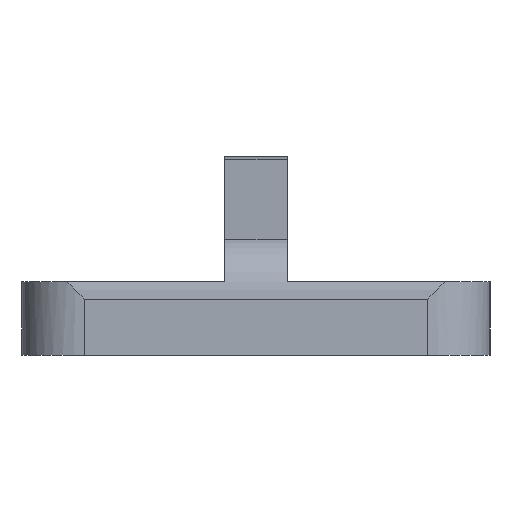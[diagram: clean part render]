
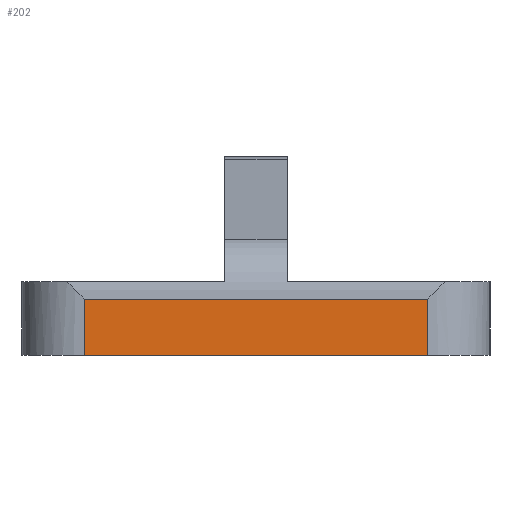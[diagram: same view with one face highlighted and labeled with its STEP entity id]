
A CAD part, left-side view. The second image highlights one B-rep face of the part: STEP entity #202.
In plain terms, the highlighted planar face has unit normal (-1, 0, 0).
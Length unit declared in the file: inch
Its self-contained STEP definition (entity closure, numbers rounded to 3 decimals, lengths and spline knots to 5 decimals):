
#11 = ORIENTED_EDGE ( 'NONE', *, *, #925, .T. ) ;
#22 = DIRECTION ( 'NONE',  ( 0., 0., -1. ) ) ;
#75 = ORIENTED_EDGE ( 'NONE', *, *, #694, .T. ) ;
#86 = PLANE ( 'NONE',  #948 ) ;
#95 = ORIENTED_EDGE ( 'NONE', *, *, #967, .T. ) ;
#124 = CARTESIAN_POINT ( 'NONE',  ( 0., 0., 0.08992 ) ) ;
#170 = CARTESIAN_POINT ( 'NONE',  ( 0., -0.1, 0. ) ) ;
#176 = VECTOR ( 'NONE', #551, 39.37008 ) ;
#195 = LINE ( 'NONE', #814, #614 ) ;
#202 = ADVANCED_FACE ( 'NONE', ( #700 ), #86, .F. ) ;
#314 = VECTOR ( 'NONE', #537, 39.37008 ) ;
#347 = VERTEX_POINT ( 'NONE', #886 ) ;
#397 = LINE ( 'NONE', #865, #176 ) ;
#411 = DIRECTION ( 'NONE',  ( 1., 0., 0. ) ) ;
#457 = LINE ( 'NONE', #774, #314 ) ;
#537 = DIRECTION ( 'NONE',  ( 0., 0., 1. ) ) ;
#548 = DIRECTION ( 'NONE',  ( 0., 1., 0. ) ) ;
#551 = DIRECTION ( 'NONE',  ( 0., -1., 0. ) ) ;
#564 = CARTESIAN_POINT ( 'NONE',  ( 0., 0., 0.11811 ) ) ;
#614 = VECTOR ( 'NONE', #22, 39.37008 ) ;
#627 = ORIENTED_EDGE ( 'NONE', *, *, #647, .T. ) ;
#629 = VERTEX_POINT ( 'NONE', #637 ) ;
#637 = CARTESIAN_POINT ( 'NONE',  ( 0., -0.65, 0.08992 ) ) ;
#647 = EDGE_CURVE ( 'NONE', #990, #347, #397, .T. ) ;
#694 = EDGE_CURVE ( 'NONE', #968, #990, #195, .T. ) ;
#700 = FACE_OUTER_BOUND ( 'NONE', #701, .T. ) ;
#701 = EDGE_LOOP ( 'NONE', ( #95, #11, #75, #627 ) ) ;
#774 = CARTESIAN_POINT ( 'NONE',  ( 0., -0.65, 0.11811 ) ) ;
#812 = VECTOR ( 'NONE', #850, 39.37008 ) ;
#814 = CARTESIAN_POINT ( 'NONE',  ( 0., -0.1, 0.11811 ) ) ;
#839 = LINE ( 'NONE', #124, #812 ) ;
#850 = DIRECTION ( 'NONE',  ( 0., 1., 0. ) ) ;
#856 = CARTESIAN_POINT ( 'NONE',  ( 0., -0.1, 0.08992 ) ) ;
#865 = CARTESIAN_POINT ( 'NONE',  ( 0., 0., 0. ) ) ;
#886 = CARTESIAN_POINT ( 'NONE',  ( 0., -0.65, 0. ) ) ;
#925 = EDGE_CURVE ( 'NONE', #629, #968, #839, .T. ) ;
#948 = AXIS2_PLACEMENT_3D ( 'NONE', #564, #411, #548 ) ;
#967 = EDGE_CURVE ( 'NONE', #347, #629, #457, .T. ) ;
#968 = VERTEX_POINT ( 'NONE', #856 ) ;
#990 = VERTEX_POINT ( 'NONE', #170 ) ;
